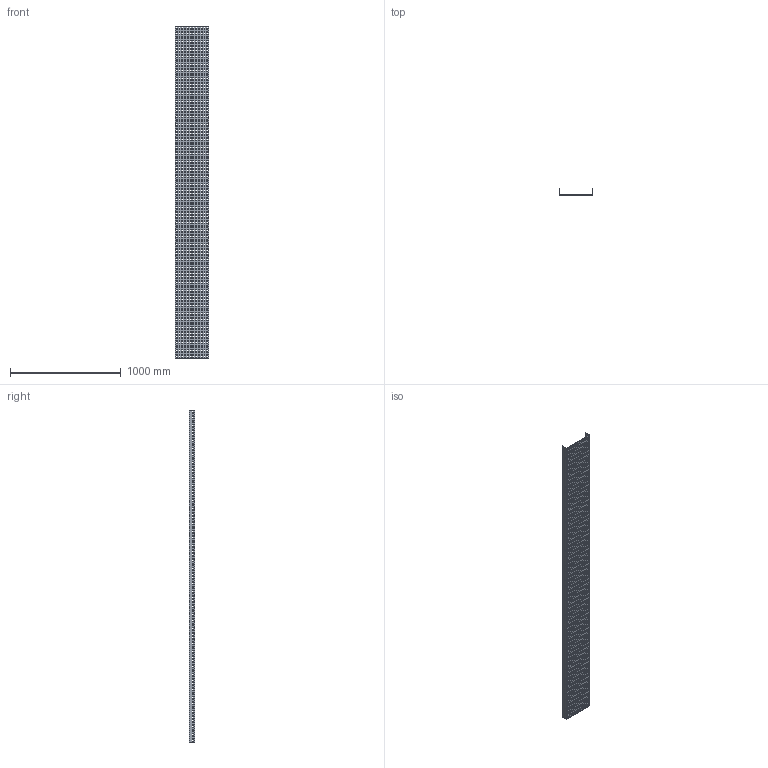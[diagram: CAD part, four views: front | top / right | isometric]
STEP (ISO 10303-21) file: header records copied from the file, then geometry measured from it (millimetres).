
FILE_DESCRIPTION (( 'STEP AP214' ), '1' );
FILE_NAME ('01F3B300.step', '2025-02-21T13:20:05', ( '' ), ( '' ), 'SwSTEP 2.0', 'SolidWorks 2023', '' );
FILE_SCHEMA (( 'AUTOMOTIVE_DESIGN' ));
Length unit declared in the file: millimetre
Products named in the file (1): 01F3B300
Bounding box: 304 x 52 x 3000 mm (x, y, z)
Volume: 3593100 mm3; surface area: 2302799 mm2
Topology: 1 solids, 1 shells, 4042 faces, 12120 edges, 8080 vertices
Faces by surface type: plane 4042
Entity records: 137399 total; most frequent: CARTESIAN_POINT 24243, ORIENTED_EDGE 24240, DIRECTION 20206, LINE 12120, EDGE_CURVE 12120, VECTOR 12120, VERTEX_POINT 8080, EDGE_LOOP 6058
